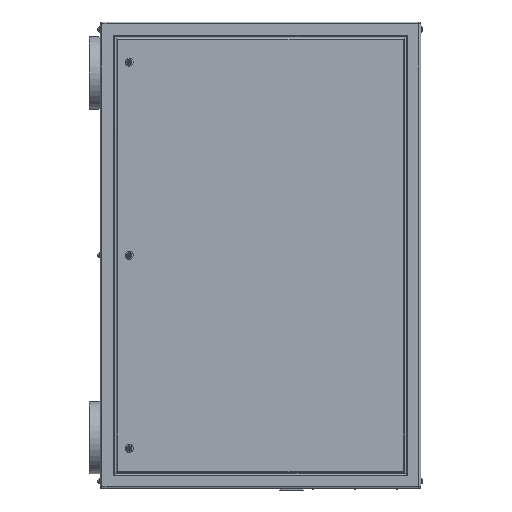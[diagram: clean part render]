
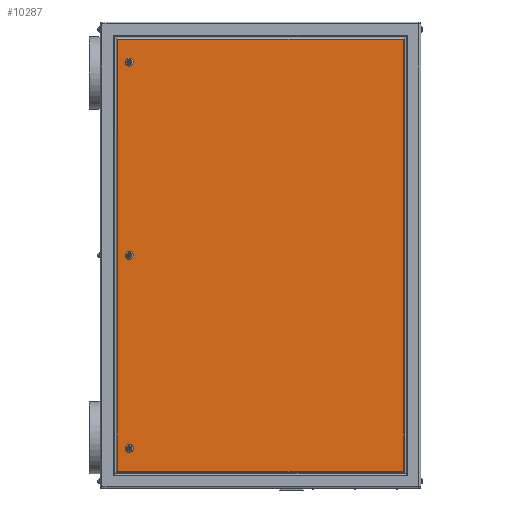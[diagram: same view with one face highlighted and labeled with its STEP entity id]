
A CAD part, left-side view. The second image highlights one B-rep face of the part: STEP entity #10287.
In plain terms, the highlighted planar face has unit normal (-1, 0, 0).
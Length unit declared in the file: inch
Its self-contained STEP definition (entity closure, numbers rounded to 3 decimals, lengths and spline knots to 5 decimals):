
#338 = EDGE_CURVE ( 'NONE', #4884, #7091, #13843, .T. ) ;
#440 = EDGE_LOOP ( 'NONE', ( #14385, #7948 ) ) ;
#968 = CARTESIAN_POINT ( 'NONE',  ( -15., 18., -25.95 ) ) ;
#1049 = CARTESIAN_POINT ( 'NONE',  ( -15., 18., -27.05 ) ) ;
#1209 = VERTEX_POINT ( 'NONE', #12531 ) ;
#1268 = ORIENTED_EDGE ( 'NONE', *, *, #6651, .T. ) ;
#1312 = CARTESIAN_POINT ( 'NONE',  ( -15., 22., -32. ) ) ;
#1454 = CARTESIAN_POINT ( 'NONE',  ( -15., 18., 0. ) ) ;
#1531 = CIRCLE ( 'NONE', #12685, 0.55 ) ;
#1639 = CARTESIAN_POINT ( 'NONE',  ( -15., 18., 25.95 ) ) ;
#1796 = DIRECTION ( 'NONE',  ( 1., 0., 0. ) ) ;
#1818 = EDGE_CURVE ( 'NONE', #1209, #12055, #6919, .T. ) ;
#2009 = CIRCLE ( 'NONE', #10490, 0.55 ) ;
#2035 = EDGE_LOOP ( 'NONE', ( #14010, #5524, #11385, #5280 ) ) ;
#2056 = FACE_BOUND ( 'NONE', #440, .T. ) ;
#2213 = EDGE_CURVE ( 'NONE', #4112, #3985, #10902, .T. ) ;
#2515 = CARTESIAN_POINT ( 'NONE',  ( -15., 22., 29.6 ) ) ;
#2754 = CARTESIAN_POINT ( 'NONE',  ( -15., 18., -0.55 ) ) ;
#2790 = CARTESIAN_POINT ( 'NONE',  ( -15., 18., 26.5 ) ) ;
#2900 = VECTOR ( 'NONE', #16348, 39.37008 ) ;
#2920 = DIRECTION ( 'NONE',  ( 1., 0., 0. ) ) ;
#3220 = EDGE_CURVE ( 'NONE', #8225, #10355, #8821, .T. ) ;
#3498 = VERTEX_POINT ( 'NONE', #8719 ) ;
#3501 = DIRECTION ( 'NONE',  ( 0., 0., -1. ) ) ;
#3985 = VERTEX_POINT ( 'NONE', #7331 ) ;
#4024 = DIRECTION ( 'NONE',  ( 0., 0., -1. ) ) ;
#4111 = CARTESIAN_POINT ( 'NONE',  ( -15., 18., -26.5 ) ) ;
#4112 = VERTEX_POINT ( 'NONE', #2754 ) ;
#4884 = VERTEX_POINT ( 'NONE', #1049 ) ;
#5013 = CARTESIAN_POINT ( 'NONE',  ( -15., 19.6, 29.6 ) ) ;
#5122 = ORIENTED_EDGE ( 'NONE', *, *, #338, .T. ) ;
#5280 = ORIENTED_EDGE ( 'NONE', *, *, #14470, .T. ) ;
#5493 = DIRECTION ( 'NONE',  ( 1., 0., 0. ) ) ;
#5524 = ORIENTED_EDGE ( 'NONE', *, *, #14360, .T. ) ;
#5756 = PLANE ( 'NONE',  #8258 ) ;
#5952 = VECTOR ( 'NONE', #13172, 39.37008 ) ;
#6051 = ORIENTED_EDGE ( 'NONE', *, *, #9140, .T. ) ;
#6151 = CARTESIAN_POINT ( 'NONE',  ( -15., 18., 0. ) ) ;
#6289 = VERTEX_POINT ( 'NONE', #15715 ) ;
#6400 = DIRECTION ( 'NONE',  ( 0., 0., -1. ) ) ;
#6651 = EDGE_CURVE ( 'NONE', #7091, #4884, #12872, .T. ) ;
#6737 = DIRECTION ( 'NONE',  ( 0., 0., -1. ) ) ;
#6919 = CIRCLE ( 'NONE', #14636, 0.55 ) ;
#6939 = DIRECTION ( 'NONE',  ( 0., 0., 1. ) ) ;
#7063 = EDGE_CURVE ( 'NONE', #12055, #1209, #2009, .T. ) ;
#7091 = VERTEX_POINT ( 'NONE', #968 ) ;
#7331 = CARTESIAN_POINT ( 'NONE',  ( -15., 18., 0.55 ) ) ;
#7566 = DIRECTION ( 'NONE',  ( 0., 1., 0. ) ) ;
#7693 = AXIS2_PLACEMENT_3D ( 'NONE', #4111, #11606, #8107 ) ;
#7790 = EDGE_LOOP ( 'NONE', ( #15132, #6051 ) ) ;
#7948 = ORIENTED_EDGE ( 'NONE', *, *, #1818, .T. ) ;
#8019 = CARTESIAN_POINT ( 'NONE',  ( -15., 18., 26.5 ) ) ;
#8107 = DIRECTION ( 'NONE',  ( 0., 0., -1. ) ) ;
#8225 = VERTEX_POINT ( 'NONE', #8671 ) ;
#8258 = AXIS2_PLACEMENT_3D ( 'NONE', #1312, #2920, #6737 ) ;
#8351 = EDGE_CURVE ( 'NONE', #6289, #3498, #10561, .T. ) ;
#8609 = FACE_BOUND ( 'NONE', #13871, .T. ) ;
#8671 = CARTESIAN_POINT ( 'NONE',  ( -15., -19.6, 29.6 ) ) ;
#8719 = CARTESIAN_POINT ( 'NONE',  ( -15., -19.6, -29.6 ) ) ;
#8821 = LINE ( 'NONE', #2515, #15568 ) ;
#8842 = CARTESIAN_POINT ( 'NONE',  ( -15., 19.6, -32. ) ) ;
#9140 = EDGE_CURVE ( 'NONE', #3985, #4112, #1531, .T. ) ;
#10287 = ADVANCED_FACE ( 'NONE', ( #8609, #15015, #2056, #12125 ), #5756, .F. ) ;
#10355 = VERTEX_POINT ( 'NONE', #5013 ) ;
#10490 = AXIS2_PLACEMENT_3D ( 'NONE', #8019, #5493, #15773 ) ;
#10561 = LINE ( 'NONE', #14326, #5952 ) ;
#10677 = CARTESIAN_POINT ( 'NONE',  ( -15., -19.6, -32. ) ) ;
#10902 = CIRCLE ( 'NONE', #11160, 0.55 ) ;
#10923 = LINE ( 'NONE', #10677, #12223 ) ;
#11084 = LINE ( 'NONE', #8842, #2900 ) ;
#11160 = AXIS2_PLACEMENT_3D ( 'NONE', #1454, #11653, #13007 ) ;
#11385 = ORIENTED_EDGE ( 'NONE', *, *, #3220, .T. ) ;
#11606 = DIRECTION ( 'NONE',  ( 1., 0., 0. ) ) ;
#11653 = DIRECTION ( 'NONE',  ( 1., 0., 0. ) ) ;
#12055 = VERTEX_POINT ( 'NONE', #1639 ) ;
#12125 = FACE_OUTER_BOUND ( 'NONE', #2035, .T. ) ;
#12223 = VECTOR ( 'NONE', #6939, 39.37008 ) ;
#12350 = DIRECTION ( 'NONE',  ( 1., 0., 0. ) ) ;
#12531 = CARTESIAN_POINT ( 'NONE',  ( -15., 18., 27.05 ) ) ;
#12685 = AXIS2_PLACEMENT_3D ( 'NONE', #6151, #16425, #6400 ) ;
#12872 = CIRCLE ( 'NONE', #15797, 0.55 ) ;
#13007 = DIRECTION ( 'NONE',  ( 0., 0., -1. ) ) ;
#13172 = DIRECTION ( 'NONE',  ( 0., -1., 0. ) ) ;
#13843 = CIRCLE ( 'NONE', #7693, 0.55 ) ;
#13871 = EDGE_LOOP ( 'NONE', ( #5122, #1268 ) ) ;
#14010 = ORIENTED_EDGE ( 'NONE', *, *, #8351, .T. ) ;
#14326 = CARTESIAN_POINT ( 'NONE',  ( -15., 22., -29.6 ) ) ;
#14360 = EDGE_CURVE ( 'NONE', #3498, #8225, #10923, .T. ) ;
#14385 = ORIENTED_EDGE ( 'NONE', *, *, #7063, .T. ) ;
#14470 = EDGE_CURVE ( 'NONE', #10355, #6289, #11084, .T. ) ;
#14636 = AXIS2_PLACEMENT_3D ( 'NONE', #2790, #1796, #4024 ) ;
#15015 = FACE_BOUND ( 'NONE', #7790, .T. ) ;
#15132 = ORIENTED_EDGE ( 'NONE', *, *, #2213, .T. ) ;
#15568 = VECTOR ( 'NONE', #7566, 39.37008 ) ;
#15715 = CARTESIAN_POINT ( 'NONE',  ( -15., 19.6, -29.6 ) ) ;
#15773 = DIRECTION ( 'NONE',  ( 0., 0., -1. ) ) ;
#15797 = AXIS2_PLACEMENT_3D ( 'NONE', #16091, #12350, #3501 ) ;
#16091 = CARTESIAN_POINT ( 'NONE',  ( -15., 18., -26.5 ) ) ;
#16348 = DIRECTION ( 'NONE',  ( 0., 0., -1. ) ) ;
#16425 = DIRECTION ( 'NONE',  ( 1., 0., 0. ) ) ;
